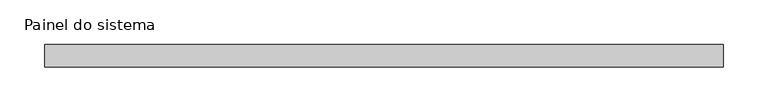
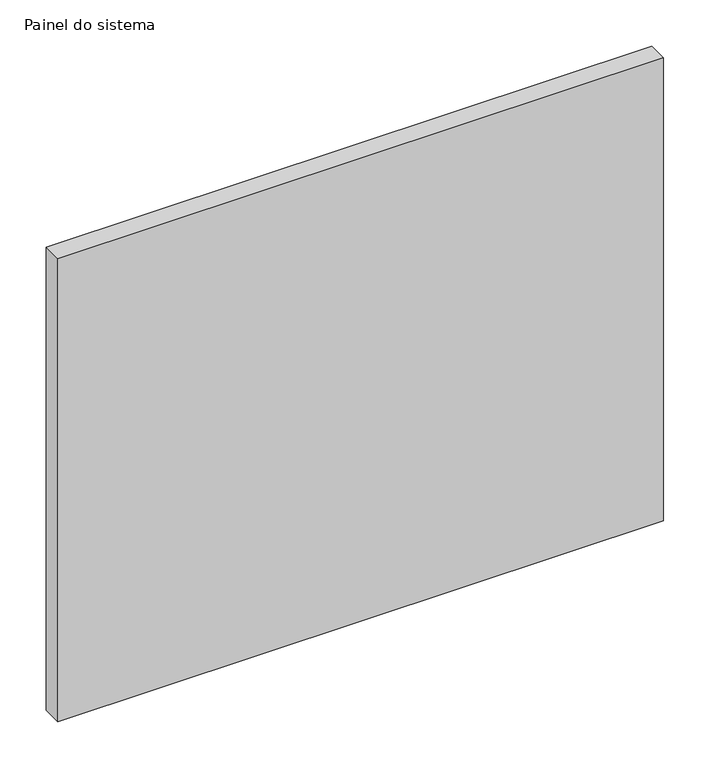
"""IFC4 building model written with IfcOpenShell, lengths in millimetres: plate geometry, Painel do sistema : Envidraçado."""

from ifc_helpers import new_model, si_unit, origin, origin_with_axes, place, context, project, spatial, polyline, outline, extrude, source, transform, mapped, element, save


def painel_do_sistema_2790b86f(model_context):
    return source(origin(), model_context, "Body", "SweptSolid", [
        extrude(outline(polyline([(377.5, 24.5), (-377.5, 24.5), (-377.5, 49.5), (377.5, 49.5), (377.5, 24.5)])), origin_with_axes(), (0.0, 0.0, 1.0), 610.0),
    ])


if __name__ == "__main__":
    model = new_model("IFC4")
    model_context = context("Model", 3, world=origin())
    ifc_project = project(units=[si_unit("LENGTHUNIT", "METRE", prefix="MILLI")], contexts=[model_context])
    site = spatial("IfcSite", under=ifc_project)
    building = spatial("IfcBuilding", under=site)
    placement = place(None, origin())
    painel_do_sistema_shape = painel_do_sistema_2790b86f(model_context)
    element("IfcPlate", 1, ObjectType="Painel do sistema : Envidraçado", at=placement, inside=building, context=model_context, shape_type="MappedRepresentation", body=[
        mapped(painel_do_sistema_shape, transform((0.0, 0.0, 0.0), x_axis=(1.0, 0.0, 0.0), y_axis=(0.0, 1.0, 0.0), z_axis=(0.0, 0.0, 1.0))),
    ])
    save(model, "model.ifc")
